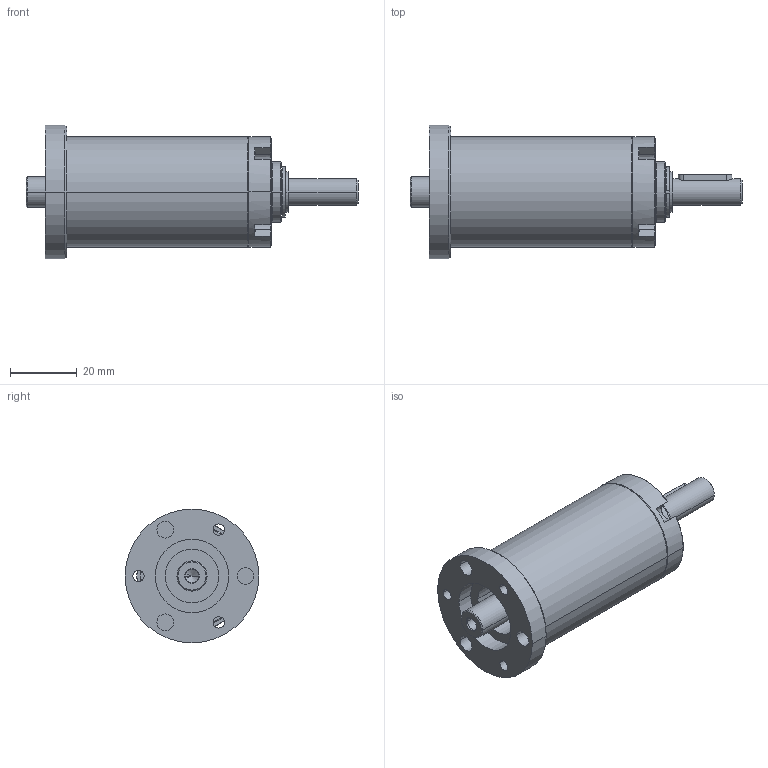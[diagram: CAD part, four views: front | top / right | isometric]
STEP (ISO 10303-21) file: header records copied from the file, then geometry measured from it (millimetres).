
FILE_DESCRIPTION((''),'2;1');
FILE_NAME('IMS33_ECO_MAX_LN_3_STAGE_ASM','2023-07-27T09:22:05',('mhummel'),(''),'CREO PARAMETRIC BY PTC INC, 2020184','CREO PARAMETRIC BY PTC INC, 2020184','');
FILE_SCHEMA(('AUTOMOTIVE_DESIGN { 1 0 10303 214 1 1 1 1 }'));
Length unit declared in the file: millimetre
Products named in the file (12): IMS33_ECO_MAX_LN_BEARING_FLANGE; IMS33_ECO_MAX_LN_SI_BEARING; IMS33_ECO_MAX_LN_RING_GEAR_3ST; IMS33_ECO_MAX_LA_MOTOR_FLANGE; IMS33_ECO_MAX_LN_SHAFT_RAW_AF0; IMS33_ECO_MAX_LN_SHAFT_ASM; IMS33_ECO_MAX_LN_FEATHER_KEY; IMS33_ECO_MAX_LN_RETAINING_RING; IMS33_ECO_MAX_LN_THRUST_WASHER; IMS33_ECO_MAX_LN_MO_PINION_LONG; IMS33_ECO_MAX_LN_MP_SHORT; IMS33_ECO_MAX_LN_3_STAGE_ASM
Assembly tree (11 placements, depth 3):
  IMS33_ECO_MAX_LN_3_STAGE_ASM
    IMS33_ECO_MAX_LN_BEARING_FLANGE
    IMS33_ECO_MAX_LN_SI_BEARING
    IMS33_ECO_MAX_LN_RING_GEAR_3ST
    IMS33_ECO_MAX_LA_MOTOR_FLANGE
    IMS33_ECO_MAX_LN_SHAFT_ASM
      IMS33_ECO_MAX_LN_SHAFT_RAW_AF0
    IMS33_ECO_MAX_LN_FEATHER_KEY
    IMS33_ECO_MAX_LN_RETAINING_RING
    IMS33_ECO_MAX_LN_THRUST_WASHER
    IMS33_ECO_MAX_LN_MO_PINION_LONG
    IMS33_ECO_MAX_LN_MP_SHORT
Bounding box: 99.25 x 40 x 40 mm (x, y, z)
Volume: 26138.8 mm3; surface area: 26412.8 mm2
Topology: 10 solids, 10 shells, 603 faces, 1372 edges, 818 vertices
Faces by surface type: plane 123, cylinder 121, cone 113, bspline 112, torus 92, sphere 40, revolution 2
Entity records: 28262 total; most frequent: CARTESIAN_POINT 10413, DIRECTION 2743, ORIENTED_EDGE 2736, PRESENTATION_STYLE_ASSIGNMENT 1394, STYLED_ITEM 1394, CURVE_STYLE 1368, EDGE_CURVE 1368, AXIS2_PLACEMENT_3D 1240
